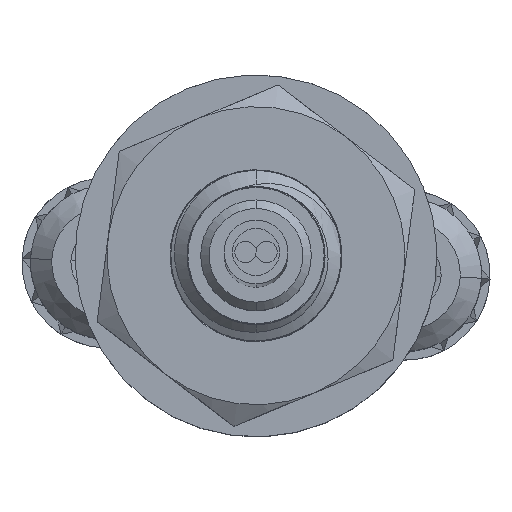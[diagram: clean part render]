
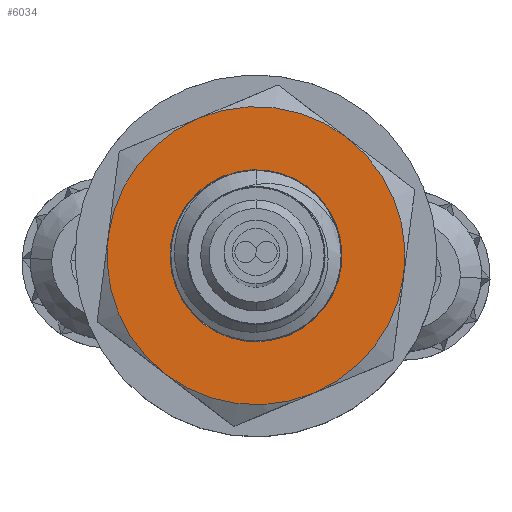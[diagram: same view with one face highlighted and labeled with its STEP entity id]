
A CAD part, top view. The second image highlights one B-rep face of the part: STEP entity #6034.
In plain terms, the highlighted planar face has unit normal (0, 0, 1).
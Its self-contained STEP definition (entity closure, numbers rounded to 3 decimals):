
#61 = AXIS2_PLACEMENT_3D ( 'NONE', #15366, #15473, #4077 ) ;
#163 = CARTESIAN_POINT ( 'NONE',  ( -0.044, 0.563, 194.664 ) ) ;
#545 = DIRECTION ( 'NONE',  ( 0., 0., -1. ) ) ;
#960 = ORIENTED_EDGE ( 'NONE', *, *, #3249, .T. ) ;
#1264 = VERTEX_POINT ( 'NONE', #9014 ) ;
#1345 = EDGE_LOOP ( 'NONE', ( #960, #4782 ) ) ;
#1450 = DIRECTION ( 'NONE',  ( 0.992, -0.128, 0. ) ) ;
#1888 = DIRECTION ( 'NONE',  ( 0., 0., 1. ) ) ;
#2088 = DIRECTION ( 'NONE',  ( 0.992, -0.128, 0. ) ) ;
#2241 = AXIS2_PLACEMENT_3D ( 'NONE', #5163, #3935, #1450 ) ;
#2258 = CARTESIAN_POINT ( 'NONE',  ( -2.168, -2.219, 194.664 ) ) ;
#2342 = ORIENTED_EDGE ( 'NONE', *, *, #14670, .T. ) ;
#2714 = DIRECTION ( 'NONE',  ( 0.992, -0.128, 0. ) ) ;
#2888 = DIRECTION ( 'NONE',  ( 0.992, -0.128, 0. ) ) ;
#3249 = EDGE_CURVE ( 'NONE', #9137, #5209, #4451, .T. ) ;
#3617 = EDGE_CURVE ( 'NONE', #4122, #14353, #7423, .T. ) ;
#3727 = VERTEX_POINT ( 'NONE', #2258 ) ;
#3935 = DIRECTION ( 'NONE',  ( 0., 0., 1. ) ) ;
#4077 = DIRECTION ( 'NONE',  ( 0.992, -0.128, 0. ) ) ;
#4122 = VERTEX_POINT ( 'NONE', #6283 ) ;
#4156 = CARTESIAN_POINT ( 'NONE',  ( -0.044, 0.563, 194.664 ) ) ;
#4408 = CARTESIAN_POINT ( 'NONE',  ( -0.044, 0.563, 194.664 ) ) ;
#4451 = CIRCLE ( 'NONE', #5962, 2.02 ) ;
#4764 = VERTEX_POINT ( 'NONE', #14727 ) ;
#4782 = ORIENTED_EDGE ( 'NONE', *, *, #5196, .T. ) ;
#4865 = DIRECTION ( 'NONE',  ( 0., 0., 1. ) ) ;
#5163 = CARTESIAN_POINT ( 'NONE',  ( -0.044, 0.563, 194.664 ) ) ;
#5196 = EDGE_CURVE ( 'NONE', #5209, #9137, #5610, .T. ) ;
#5209 = VERTEX_POINT ( 'NONE', #7815 ) ;
#5337 = AXIS2_PLACEMENT_3D ( 'NONE', #7826, #6550, #6605 ) ;
#5610 = CIRCLE ( 'NONE', #14205, 2.02 ) ;
#5962 = AXIS2_PLACEMENT_3D ( 'NONE', #4156, #545, #2888 ) ;
#6034 = ADVANCED_FACE ( 'NONE', ( #14248, #12085 ), #12760, .T. ) ;
#6283 = CARTESIAN_POINT ( 'NONE',  ( 3.427, 0.114, 194.664 ) ) ;
#6550 = DIRECTION ( 'NONE',  ( 0., 0., 1. ) ) ;
#6605 = DIRECTION ( 'NONE',  ( 0.992, -0.128, 0. ) ) ;
#6665 = AXIS2_PLACEMENT_3D ( 'NONE', #7374, #4865, #14923 ) ;
#7065 = ORIENTED_EDGE ( 'NONE', *, *, #3617, .T. ) ;
#7374 = CARTESIAN_POINT ( 'NONE',  ( -0.044, 0.563, 194.664 ) ) ;
#7423 = CIRCLE ( 'NONE', #15228, 3.5 ) ;
#7815 = CARTESIAN_POINT ( 'NONE',  ( -2.047, 0.821, 194.664 ) ) ;
#7826 = CARTESIAN_POINT ( 'NONE',  ( -0.044, 0.563, 194.664 ) ) ;
#7867 = CARTESIAN_POINT ( 'NONE',  ( 2.08, 3.345, 194.664 ) ) ;
#8383 = EDGE_CURVE ( 'NONE', #4764, #4122, #12230, .T. ) ;
#9014 = CARTESIAN_POINT ( 'NONE',  ( -3.515, 1.011, 194.664 ) ) ;
#9046 = ORIENTED_EDGE ( 'NONE', *, *, #11099, .T. ) ;
#9135 = EDGE_LOOP ( 'NONE', ( #13697, #7065, #15394, #2342, #9046, #13970 ) ) ;
#9137 = VERTEX_POINT ( 'NONE', #15064 ) ;
#9230 = AXIS2_PLACEMENT_3D ( 'NONE', #10759, #1888, #12076 ) ;
#9454 = EDGE_CURVE ( 'NONE', #14353, #13117, #9671, .T. ) ;
#9671 = CIRCLE ( 'NONE', #9230, 3.5 ) ;
#10204 = CIRCLE ( 'NONE', #2241, 3.5 ) ;
#10266 = DIRECTION ( 'NONE',  ( 0., 0., -1. ) ) ;
#10759 = CARTESIAN_POINT ( 'NONE',  ( -0.044, 0.563, 194.664 ) ) ;
#11099 = EDGE_CURVE ( 'NONE', #1264, #3727, #10204, .T. ) ;
#11166 = EDGE_CURVE ( 'NONE', #3727, #4764, #15707, .T. ) ;
#11772 = CARTESIAN_POINT ( 'NONE',  ( -1.391, 3.793, 194.664 ) ) ;
#12049 = DIRECTION ( 'NONE',  ( 0.992, -0.128, 0. ) ) ;
#12076 = DIRECTION ( 'NONE',  ( 0.992, -0.128, 0. ) ) ;
#12085 = FACE_OUTER_BOUND ( 'NONE', #9135, .T. ) ;
#12230 = CIRCLE ( 'NONE', #6665, 3.5 ) ;
#12760 = PLANE ( 'NONE',  #61 ) ;
#13117 = VERTEX_POINT ( 'NONE', #11772 ) ;
#13190 = DIRECTION ( 'NONE',  ( 0., 0., 1. ) ) ;
#13468 = CARTESIAN_POINT ( 'NONE',  ( -0.044, 0.563, 194.664 ) ) ;
#13526 = DIRECTION ( 'NONE',  ( 0., 0., 1. ) ) ;
#13697 = ORIENTED_EDGE ( 'NONE', *, *, #8383, .T. ) ;
#13803 = CIRCLE ( 'NONE', #14999, 3.5 ) ;
#13970 = ORIENTED_EDGE ( 'NONE', *, *, #11166, .T. ) ;
#14205 = AXIS2_PLACEMENT_3D ( 'NONE', #163, #10266, #2714 ) ;
#14248 = FACE_BOUND ( 'NONE', #1345, .T. ) ;
#14353 = VERTEX_POINT ( 'NONE', #7867 ) ;
#14670 = EDGE_CURVE ( 'NONE', #13117, #1264, #13803, .T. ) ;
#14727 = CARTESIAN_POINT ( 'NONE',  ( 1.304, -2.668, 194.664 ) ) ;
#14923 = DIRECTION ( 'NONE',  ( 0.992, -0.128, 0. ) ) ;
#14999 = AXIS2_PLACEMENT_3D ( 'NONE', #4408, #13190, #12049 ) ;
#15064 = CARTESIAN_POINT ( 'NONE',  ( 1.96, 0.304, 194.664 ) ) ;
#15228 = AXIS2_PLACEMENT_3D ( 'NONE', #13468, #13526, #2088 ) ;
#15366 = CARTESIAN_POINT ( 'NONE',  ( -0.044, 0.563, 194.664 ) ) ;
#15394 = ORIENTED_EDGE ( 'NONE', *, *, #9454, .T. ) ;
#15473 = DIRECTION ( 'NONE',  ( 0., 0., 1. ) ) ;
#15707 = CIRCLE ( 'NONE', #5337, 3.5 ) ;
